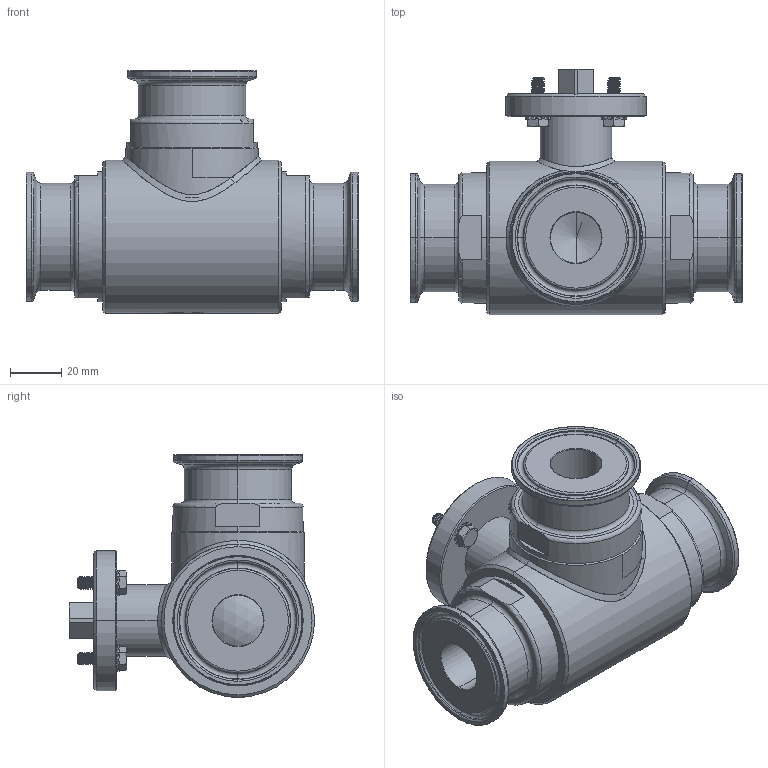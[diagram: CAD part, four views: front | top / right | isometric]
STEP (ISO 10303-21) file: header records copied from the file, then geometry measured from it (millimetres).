
FILE_DESCRIPTION((''),'2;1');
FILE_NAME('31303062310','2019-01-11T15:49:19',('UFFICIO TECNICO'),('CDM Tecnoconsulting'),'CREO PARAMETRIC BY PTC INC, 2018050','CREO PARAMETRIC BY PTC INC, 2018050','');
FILE_SCHEMA(('CONFIG_CONTROL_DESIGN','SHAPE_APPEARANCE_LAYERS_GROUPS'));
Products named in the file (1): 31303062310
Bounding box: 130 x 96 x 95 mm (x, y, z)
Surface area: 66041.7 mm2 (no closed solid volume)
Topology: 0 solids, 35 shells, 939 faces, 3206 edges, 2233 vertices
Faces by surface type: cylinder 294, plane 281, cone 140, torus 108, bspline 104, extrusion 11, sphere 1
Entity records: 78659 total; most frequent: CARTESIAN_POINT 42968, ORIENTED_EDGE 5348, DIRECTION 4399, PRESENTATION_STYLE_ASSIGNMENT 3351, STYLED_ITEM 3237, CURVE_STYLE 3212, EDGE_CURVE 3201, VERTEX_POINT 2233
